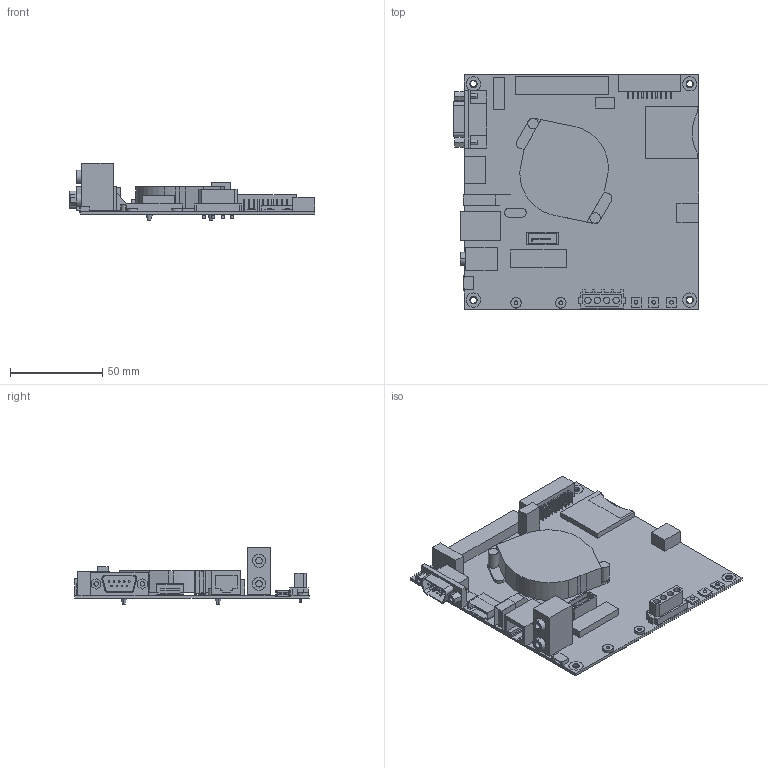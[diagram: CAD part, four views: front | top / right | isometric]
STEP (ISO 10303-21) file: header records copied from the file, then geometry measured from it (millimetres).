
FILE_DESCRIPTION (( 'STEP AP214' ), '1' );
FILE_NAME ('Jetson_PCB.STEP', '2015-02-27T01:47:25', ( '' ), ( '' ), '', '', '' );
FILE_SCHEMA (( '' ));
Length unit declared in the file: millimetre
Products named in the file (1): Jetson_PCB
Bounding box: 133.05 x 127 x 31.05 mm (x, y, z)
Volume: 78003.8 mm3; surface area: 56341 mm2
Topology: 9 solids, 9 shells, 512 faces, 1270 edges, 842 vertices
Faces by surface type: plane 362, cylinder 138, torus 8, cone 4
Entity records: 17730 total; most frequent: CARTESIAN_POINT 2646, DIRECTION 2590, ORIENTED_EDGE 2540, EDGE_CURVE 1270, VECTOR 970, LINE 970, VERTEX_POINT 842, AXIS2_PLACEMENT_3D 810
